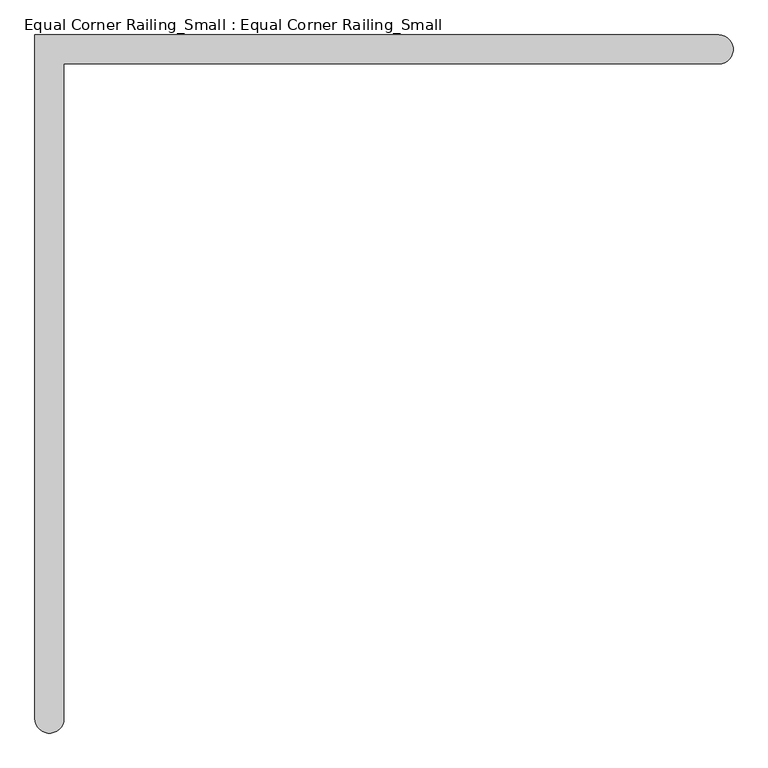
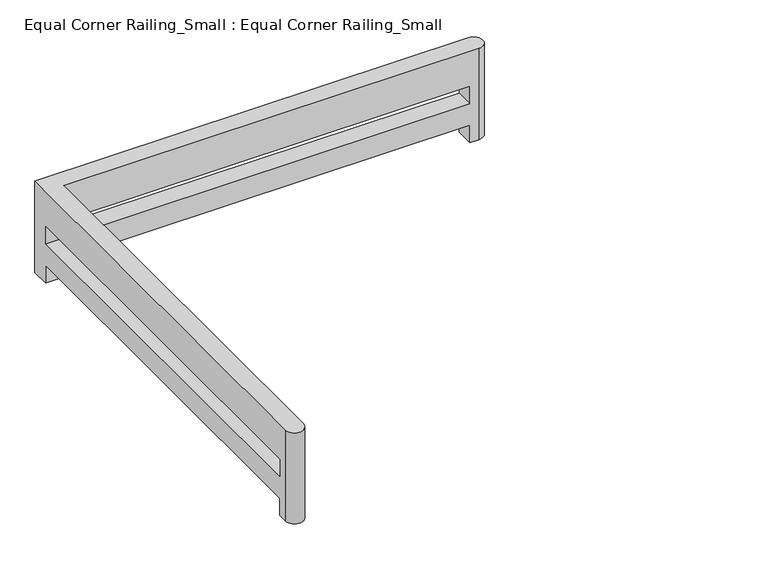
"""IFC4 building model written with IfcOpenShell, lengths in millimetres: railing geometry, Equal Corner Railing_Small : Equal Corner Railing_Small."""

from ifc_helpers import new_model, si_unit, frame, origin, place, context, project, spatial, circle_curve, source, transform, mapped, element, save
from ifc_brep_helpers import plane_surface, cylinder_surface, advanced_brep


def equal_corner_railing_small_equal_corner_railing_small_101afe3f(model_context):
    return source(origin(), model_context, "Body", "AdvancedBrep", [
        advanced_brep(
        [(-101.6, -4699.0, 1066.8), (101.6, -4699.0, 1066.8), (101.6, -101.6, 1066.8), (4699.0, -101.6, 1066.8), (4699.0, 101.6, 1066.8), (-101.6, 101.6, 1066.8), (-101.6, -4699.0, 0.0), (-101.6, -4597.4, 0.0), (101.6, -4597.4, 0.0), (101.6, -4699.0, 0.0), (4699.0, -101.6, 0.0), (4597.4, -101.6, 0.0), (4597.4, 101.6, 0.0), (4699.0, 101.6, 0.0), (101.6, 101.6, 0.0), (101.6, -101.6, 0.0), (-101.6, -101.6, 0.0), (-101.6, 101.6, 0.0), (-101.6, -101.6, 203.2), (-101.6, -4597.4, 203.2), (-101.6, -4597.4, 660.4), (-101.6, -4597.4, 457.2), (-101.6, -101.6, 457.2), (-101.6, -101.6, 660.4), (4597.4, 101.6, 203.2), (101.6, 101.6, 203.2), (101.6, 101.6, 660.4), (101.6, 101.6, 457.2), (4597.4, 101.6, 457.2), (4597.4, 101.6, 660.4), (101.6, -101.6, 660.4), (4597.4, -101.6, 660.4), (4597.4, -101.6, 457.2), (101.6, -101.6, 457.2), (101.6, -101.6, 203.2), (4597.4, -101.6, 203.2), (101.6, -4597.4, 203.2), (101.6, -4597.4, 457.2), (101.6, -4597.4, 660.4)],
        [
            (0, 1, circle_curve(frame((0.0, -4699.0, 1066.8), z_axis=(0.0, 0.0, 1.0), x_axis=(1.0, 0.0, 0.0)), 101.6)),
            (1, 2),
            (2, 3),
            (3, 4, circle_curve(frame((4699.0, 0.0, 1066.8), z_axis=(0.0, 0.0, 1.0), x_axis=(1.0, 0.0, 0.0)), 101.6)),
            (4, 5),
            (5, 0),
            (6, 7),
            (7, 8),
            (8, 9),
            (9, 6, circle_curve(frame((0.0, -4699.0, 0.0), z_axis=(0.0, 0.0, -1.0), x_axis=(1.0, 0.0, 0.0)), 101.6)),
            (10, 11),
            (11, 12),
            (12, 13),
            (13, 10, circle_curve(frame((4699.0, 0.0, 0.0), z_axis=(0.0, 0.0, -1.0), x_axis=(1.0, 0.0, 0.0)), 101.6)),
            (14, 15),
            (15, 16),
            (16, 17),
            (17, 14),
            (5, 17),
            (16, 18),
            (18, 19),
            (19, 7),
            (6, 0),
            (20, 21),
            (21, 22),
            (22, 23),
            (23, 20),
            (4, 13),
            (12, 24),
            (24, 25),
            (25, 14),
            (26, 27),
            (27, 28),
            (28, 29),
            (29, 26),
            (3, 10),
            (2, 30),
            (30, 31),
            (31, 32),
            (32, 33),
            (33, 34),
            (34, 35),
            (35, 11),
            (1, 9),
            (8, 36),
            (36, 34),
            (33, 37),
            (37, 38),
            (38, 30),
            (34, 15),
            (25, 34),
            (30, 33),
            (33, 27),
            (26, 30),
            (24, 35),
            (29, 31),
            (32, 28),
            (36, 19),
            (18, 34),
            (38, 20),
            (23, 30),
            (22, 33),
            (21, 37),
        ],
        [
            plane_surface(frame((-101.6, 0.0, 1066.8), z_axis=(0.0, 0.0, 1.0), x_axis=(0.0, 1.0, 0.0))),
            plane_surface(frame((-101.6, 0.0, 0.0), z_axis=(0.0, 0.0, -1.0), x_axis=(0.0, -1.0, 0.0))),
            plane_surface(frame((-101.6, -4699.0, 1066.8), z_axis=(-1.0, 0.0, 0.0), x_axis=(0.0, 0.0, -1.0))),
            plane_surface(frame((-101.6, 101.6, 1066.8), z_axis=(0.0, 1.0, 0.0), x_axis=(0.0, 0.0, -1.0))),
            cylinder_surface(frame((4699.0, 0.0, 0.0), z_axis=(0.0, 0.0, 1.0), x_axis=(1.0, 0.0, 0.0)), 101.6),
            plane_surface(frame((4699.0, -101.6, 1066.8), z_axis=(0.0, -1.0, 0.0), x_axis=(0.0, 0.0, -1.0))),
            plane_surface(frame((101.6, -101.6, 1066.8), z_axis=(1.0, 0.0, 0.0), x_axis=(0.0, 0.0, -1.0))),
            cylinder_surface(frame((0.0, -4699.0, 0.0), z_axis=(0.0, 0.0, 1.0), x_axis=(1.0, 0.0, 0.0)), 101.6),
            plane_surface(frame((4597.4, 101.6, 203.2), z_axis=(0.0, 0.0, -1.0), x_axis=(0.0, -1.0, 0.0))),
            plane_surface(frame((4597.4, 101.6, 0.0), z_axis=(-1.0, 0.0, 0.0), x_axis=(0.0, -1.0, 0.0))),
            plane_surface(frame((4597.4, 101.6, 660.4), z_axis=(0.0, 0.0, -1.0), x_axis=(0.0, -1.0, 0.0))),
            plane_surface(frame((101.6, 101.6, 457.2), z_axis=(0.0, 0.0, 1.0), x_axis=(0.0, -1.0, 0.0))),
            plane_surface(frame((4597.4, 101.6, 457.2), z_axis=(-1.0, 0.0, 0.0), x_axis=(0.0, -1.0, 0.0))),
            plane_surface(frame((101.6, -4597.4, 203.2), z_axis=(0.0, 0.0, -1.0), x_axis=(-1.0, 0.0, 0.0))),
            plane_surface(frame((101.6, -101.6, 203.2), z_axis=(0.0, -1.0, 0.0), x_axis=(-1.0, 0.0, 0.0))),
            plane_surface(frame((101.6, -4597.4, 0.0), z_axis=(0.0, 1.0, 0.0), x_axis=(-1.0, 0.0, 0.0))),
            plane_surface(frame((101.6, -4597.4, 660.4), z_axis=(0.0, 0.0, -1.0), x_axis=(-1.0, 0.0, 0.0))),
            plane_surface(frame((101.6, -101.6, 660.4), z_axis=(0.0, -1.0, 0.0), x_axis=(-1.0, 0.0, 0.0))),
            plane_surface(frame((101.6, -101.6, 457.2), z_axis=(0.0, 0.0, 1.0), x_axis=(-1.0, 0.0, 0.0))),
            plane_surface(frame((101.6, -4597.4, 457.2), z_axis=(0.0, 1.0, 0.0), x_axis=(-1.0, 0.0, 0.0))),
        ],
        [
            (0, [[1, 2, 3, 4, 5, 6]]),
            (1, [[7, 8, 9, 10]]),
            (1, [[11, 12, 13, 14]]),
            (1, [[15, 16, 17, 18]]),
            (2, [[19, -17, 20, 21, 22, -7, 23, -6], [24, 25, 26, 27]]),
            (3, [[28, -13, 29, 30, 31, -18, -19, -5], [32, 33, 34, 35]]),
            (4, [[36, -14, -28, -4]]),
            (5, [[37, 38, 39, 40, 41, 42, 43, -11, -36, -3]]),
            (6, [[44, -9, 45, 46, -41, 47, 48, 49, -37, -2]]),
            (6, [[50, -15, -31, 51]]),
            (6, [[52, 53, -32, 54]]),
            (7, [[-23, -10, -44, -1]]),
            (8, [[-30, 55, -42, -51]]),
            (9, [[-29, -12, -43, -55]]),
            (10, [[-35, 56, -38, -54]]),
            (11, [[-40, 57, -33, -53]]),
            (12, [[-34, -57, -39, -56]]),
            (13, [[-46, 58, -21, 59]]),
            (14, [[-20, -16, -50, -59]]),
            (15, [[-45, -8, -22, -58]]),
            (16, [[-49, 60, -27, 61]]),
            (17, [[-26, 62, -52, -61]]),
            (18, [[-25, 63, -47, -62]]),
            (19, [[-48, -63, -24, -60]]),
        ],
    ),
    ])


if __name__ == "__main__":
    model = new_model("IFC4")
    model_context = context("Model", 3, world=origin())
    ifc_project = project(units=[si_unit("LENGTHUNIT", "METRE", prefix="MILLI")], contexts=[model_context])
    site = spatial("IfcSite", under=ifc_project)
    building = spatial("IfcBuilding", under=site)
    placement = place(None, origin())
    equal_corner_railing_small_equal_corner_railing_small_shape = equal_corner_railing_small_equal_corner_railing_small_101afe3f(model_context)
    element("IfcRailing", 1, ObjectType="Equal Corner Railing_Small : Equal Corner Railing_Small", at=placement, inside=building, context=model_context, shape_type="MappedRepresentation", body=[
        mapped(equal_corner_railing_small_equal_corner_railing_small_shape, transform((0.0, 0.0, 0.0), x_axis=(1.0, 0.0, 0.0), y_axis=(0.0, 1.0, 0.0), z_axis=(0.0, 0.0, 1.0))),
    ])
    save(model, "model.ifc")
